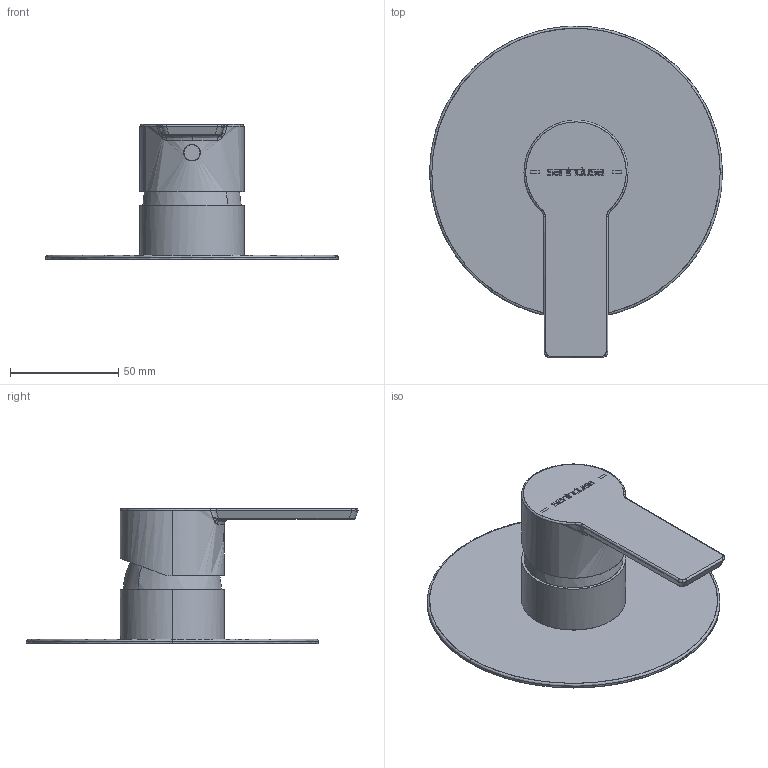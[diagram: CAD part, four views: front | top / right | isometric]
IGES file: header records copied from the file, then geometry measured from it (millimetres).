
Start section: SolidWorks IGES file using NURBS representation for surfaces
Global section: file name: \\IBMGRAU\Projectos\01-TORNEIRAS\MASTER 40\5251701C - mist. encast. 3v esp. red\biblioteca 3D\5251701C_igs.IGS; native system: SolidWorks 2019; preprocessor: SolidWorks 2019; author: Julio; date: 190403.180449; units: millimetre
Bounding box: 135 x 153.16 x 62.29 mm (x, y, z)
Surface area: 42883.2 mm2 (no closed solid volume)
Topology: 0 solids, 0 shells, 209 faces, 2030 edges, 2028 vertices
Faces by surface type: bspline 209
